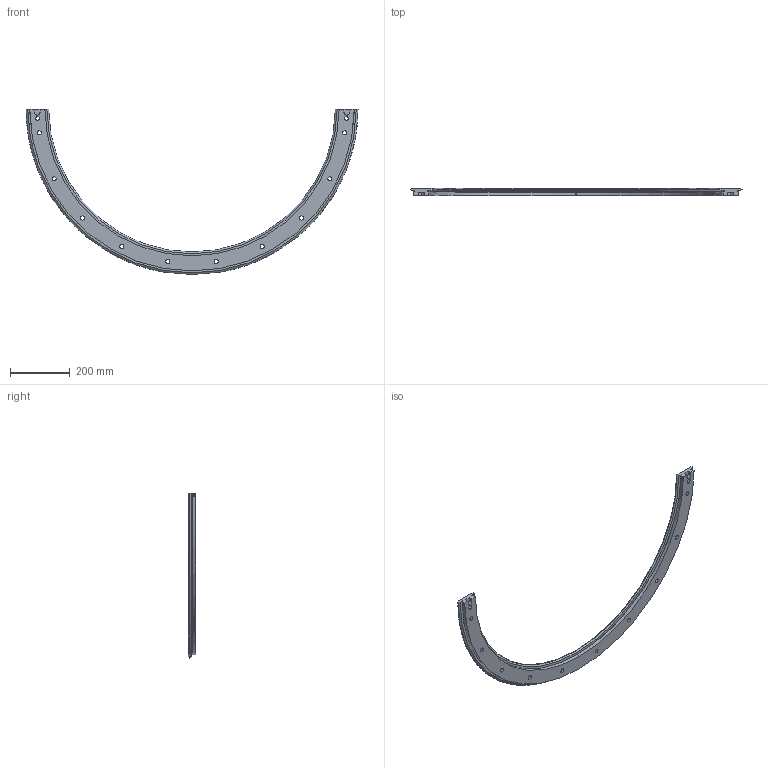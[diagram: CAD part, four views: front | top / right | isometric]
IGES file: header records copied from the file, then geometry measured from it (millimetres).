
Start section: 3D InterOp IGES (v. 2019 1.0.2), Spatial Corp. Copyright (c) 1999-2017.
Global section: file name: TR76 1033 R180.igs; native system: Spatial Corp.; preprocessor: 3D InterOp GENERIC/IGES 3.0; author: Noname; organization: Noname; date: 20220628.160223; units: millimetre
Bounding box: 1108.6 x 24 x 551.77 mm (x, y, z)
Surface area: 343868.7 mm2 (no closed solid volume)
Topology: 0 solids, 0 shells, 138 faces, 690 edges, 690 vertices
Faces by surface type: revolution 80, extrusion 58
